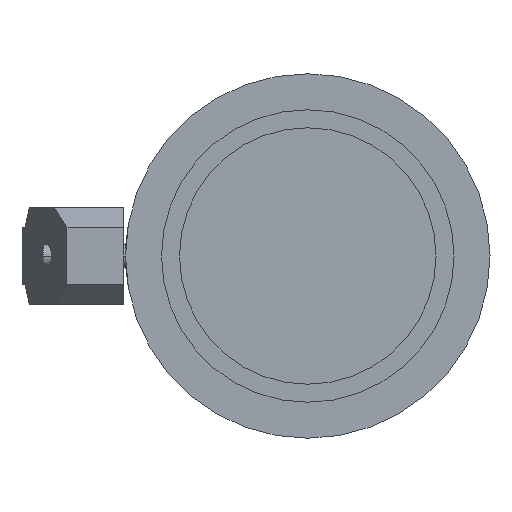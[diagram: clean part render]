
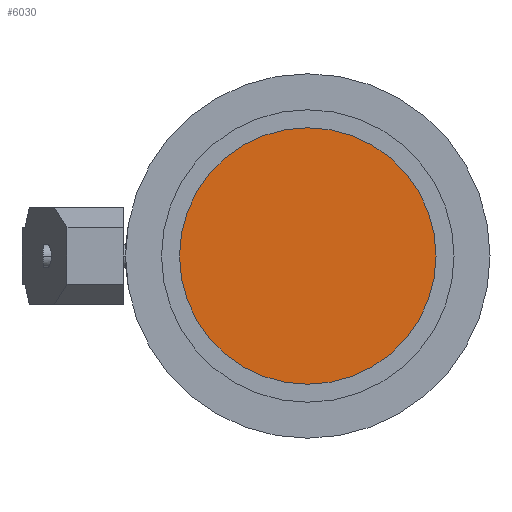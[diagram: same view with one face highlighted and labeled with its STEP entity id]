
A CAD part, left-side view. The second image highlights one B-rep face of the part: STEP entity #6030.
In plain terms, the highlighted planar face has unit normal (-1, 0, 0) as drawn and (1, 0, 0) by its records, which use the part's own axes.
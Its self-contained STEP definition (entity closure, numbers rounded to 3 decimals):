
#5830=CARTESIAN_POINT('',(-220.595,12.651,
-31.768));
#5840=DIRECTION('',(1.,0.,0.));
#5850=DIRECTION('',(0.,-1.,0.));
#5860=AXIS2_PLACEMENT_3D('',#5830,#5840,#5850);
#5870=PLANE('',#5860);
#5880=CARTESIAN_POINT('',(-220.595,37.875,0.));
#5890=DIRECTION('',(1.,0.,0.));
#5900=DIRECTION('',(0.,-1.,0.));
#5910=AXIS2_PLACEMENT_3D('',#5880,#5890,#5900);
#5920=CIRCLE('',#5910,57.);
#5930=CARTESIAN_POINT('',(-220.595,-19.125,0.));
#5940=VERTEX_POINT('',#5930);
#5950=CARTESIAN_POINT('',(-220.595,94.875,
0.));
#5960=VERTEX_POINT('',#5950);
#5970=EDGE_CURVE('',#5940,#5960,#5920,.T.);
#5980=ORIENTED_EDGE('',*,*,#5970,.T.);
#5990=EDGE_CURVE('',#5960,#5940,#5920,.T.);
#6000=ORIENTED_EDGE('',*,*,#5990,.T.);
#6010=EDGE_LOOP('',(#6000,#5980));
#6020=FACE_OUTER_BOUND('',#6010,.T.);
#6030=ADVANCED_FACE('',(#6020),#5870,.T.);
